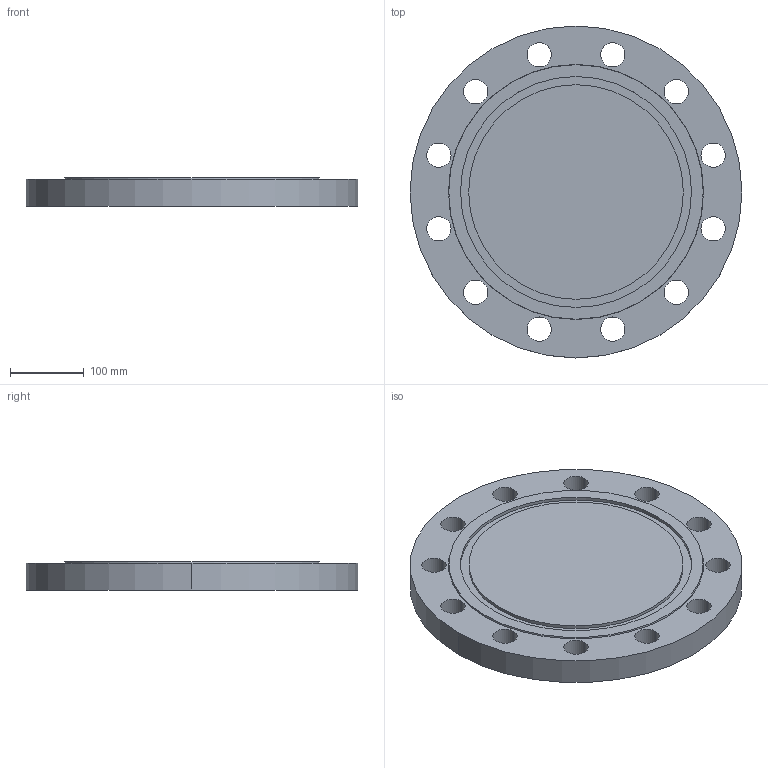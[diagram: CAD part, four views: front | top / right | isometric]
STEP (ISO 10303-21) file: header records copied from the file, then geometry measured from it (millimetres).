
FILE_DESCRIPTION (( 'STEP AP214' ), '1' );
FILE_NAME ('PN40 DN250 Type 05 - Type D Face.STEP', '2019-01-05T16:15:02', ( '' ), ( '' ), 'SwSTEP 2.0', 'SolidWorks 2019', '' );
FILE_SCHEMA (( 'AUTOMOTIVE_DESIGN' ));
Length unit declared in the file: millimetre
Products named in the file (1): PN40 DN250 Type 05 - Type D Face
Bounding box: 450 x 450 x 38 mm (x, y, z)
Volume: 5496446.5 mm3; surface area: 403599.1 mm2
Topology: 1 solids, 1 shells, 37 faces, 96 edges, 64 vertices
Faces by surface type: cylinder 30, plane 5, cone 2
Entity records: 1256 total; most frequent: DIRECTION 236, CARTESIAN_POINT 198, ORIENTED_EDGE 192, AXIS2_PLACEMENT_3D 102, EDGE_CURVE 96, CIRCLE 64, VERTEX_POINT 64, EDGE_LOOP 64
